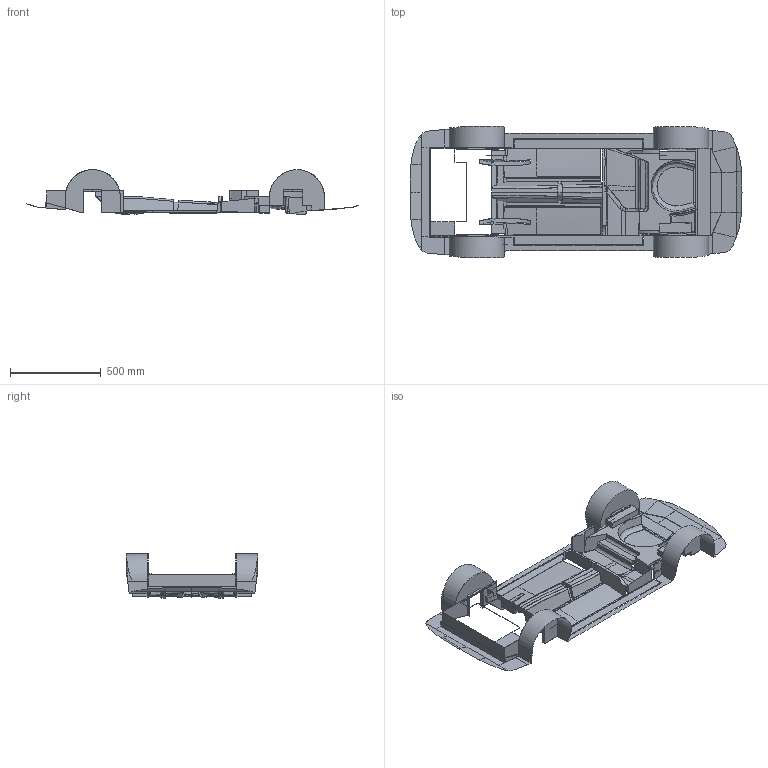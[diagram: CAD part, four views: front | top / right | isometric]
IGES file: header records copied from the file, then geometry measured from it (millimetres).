
Global section: file name: chassis.igs; native system: ANSA9.x; preprocessor: 1.2; author: cky; date: **0103.144123; units: millimetre
Bounding box: 1830.47 x 727.3 x 247.12 mm (x, y, z)
Surface area: 1947408.6 mm2 (no closed solid volume)
Topology: 0 solids, 0 shells, 389 faces, 3561 edges, 3553 vertices
Faces by surface type: bspline 249, extrusion 136, revolution 4
